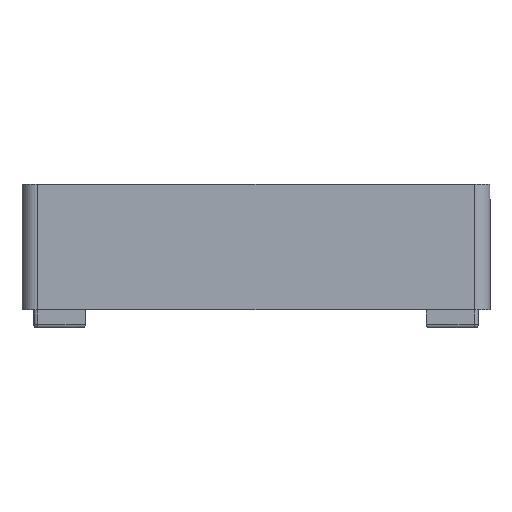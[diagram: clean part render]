
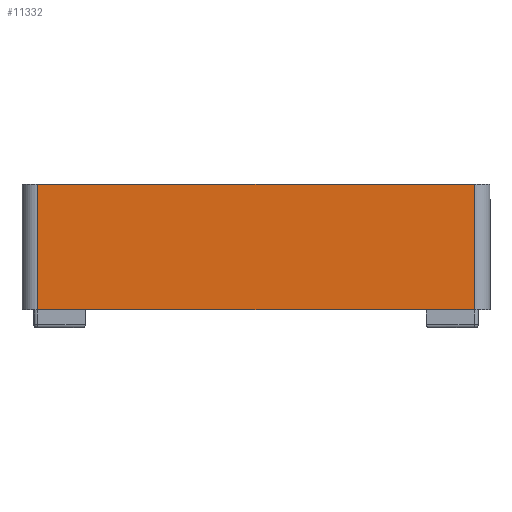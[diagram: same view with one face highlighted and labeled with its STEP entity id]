
A CAD part, left-side view. The second image highlights one B-rep face of the part: STEP entity #11332.
In plain terms, the highlighted planar face has unit normal (-1, 0, 0).
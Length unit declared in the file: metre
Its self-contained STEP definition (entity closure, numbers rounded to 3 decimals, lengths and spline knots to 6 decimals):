
#2032=ORIENTED_EDGE('',*,*,#5520,.T.);
#2033=ORIENTED_EDGE('',*,*,#5471,.F.);
#2034=ORIENTED_EDGE('',*,*,#5521,.F.);
#2035=ORIENTED_EDGE('',*,*,#5522,.T.);
#5471=EDGE_CURVE('',#7218,#7219,#7834,.T.);
#5520=EDGE_CURVE('',#7254,#7219,#7878,.T.);
#5521=EDGE_CURVE('',#7255,#7218,#7879,.T.);
#5522=EDGE_CURVE('',#7255,#7254,#7880,.T.);
#7218=VERTEX_POINT('',#17600);
#7219=VERTEX_POINT('',#17602);
#7254=VERTEX_POINT('',#17693);
#7255=VERTEX_POINT('',#17695);
#7834=LINE('',#17601,#8932);
#7878=LINE('',#17692,#8976);
#7879=LINE('',#17694,#8977);
#7880=LINE('',#17696,#8978);
#8932=VECTOR('',#13176,1.);
#8976=VECTOR('',#13244,1.);
#8977=VECTOR('',#13245,1.);
#8978=VECTOR('',#13246,1.);
#9732=EDGE_LOOP('',(#2032,#2033,#2034,#2035));
#10442=FACE_BOUND('',#9732,.T.);
#11064=PLANE('',#12062);
#11332=ADVANCED_FACE('',(#10442),#11064,.T.);
#12062=AXIS2_PLACEMENT_3D('',#17691,#13242,#13243);
#13176=DIRECTION('',(0.,1.,0.));
#13242=DIRECTION('',(-1.,0.,0.));
#13243=DIRECTION('',(0.,0.,1.));
#13244=DIRECTION('',(0.,0.,-1.));
#13245=DIRECTION('',(0.,0.,-1.));
#13246=DIRECTION('',(0.,1.,0.));
#17600=CARTESIAN_POINT('',(-0.045067,-0.027624,0.004));
#17601=CARTESIAN_POINT('',(-0.045067,-0.01074,0.004));
#17602=CARTESIAN_POINT('',(-0.045067,0.027976,0.004));
#17691=CARTESIAN_POINT('',(-0.045067,-0.01074,0.02));
#17692=CARTESIAN_POINT('',(-0.045067,0.027976,0.02));
#17693=CARTESIAN_POINT('',(-0.045067,0.027976,0.02));
#17694=CARTESIAN_POINT('',(-0.045067,-0.027624,0.02));
#17695=CARTESIAN_POINT('',(-0.045067,-0.027624,0.02));
#17696=CARTESIAN_POINT('',(-0.045067,-0.01074,0.02));
